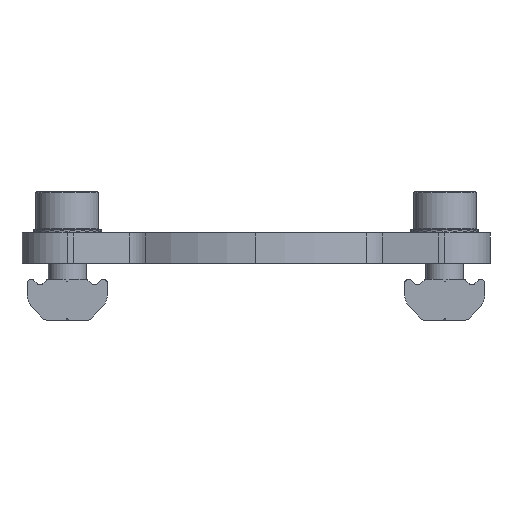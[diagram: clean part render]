
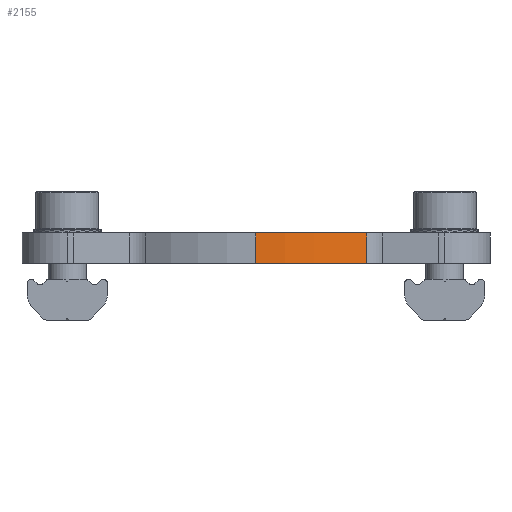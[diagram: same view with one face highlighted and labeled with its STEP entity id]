
A CAD part, left-side view. The second image highlights one B-rep face of the part: STEP entity #2155.
In plain terms, the highlighted cylindrical face has radius 26 mm (diameter 52 mm), a partial arc.
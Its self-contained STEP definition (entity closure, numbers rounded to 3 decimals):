
#188 = CARTESIAN_POINT ( 'NONE',  ( -26., 0., 0. ) ) ;
#214 = CARTESIAN_POINT ( 'NONE',  ( 0., 0., 4. ) ) ;
#1166 = EDGE_CURVE ( 'NONE', #4366, #6252, #3192, .T. ) ;
#1494 = DIRECTION ( 'NONE',  ( 0., 0., 1. ) ) ;
#1505 = CARTESIAN_POINT ( 'NONE',  ( -21.452, -14.69, 0. ) ) ;
#1584 = ORIENTED_EDGE ( 'NONE', *, *, #6849, .T. ) ;
#1639 = FACE_OUTER_BOUND ( 'NONE', #5172, .T. ) ;
#1658 = EDGE_CURVE ( 'NONE', #2732, #6522, #7600, .T. ) ;
#1762 = DIRECTION ( 'NONE',  ( -1., 0., 0. ) ) ;
#1884 = ORIENTED_EDGE ( 'NONE', *, *, #5950, .T. ) ;
#2056 = VECTOR ( 'NONE', #4615, 1000. ) ;
#2155 = ADVANCED_FACE ( 'NONE', ( #1639 ), #9489, .T. ) ;
#2287 = AXIS2_PLACEMENT_3D ( 'NONE', #7956, #1494, #2371 ) ;
#2371 = DIRECTION ( 'NONE',  ( -1., 0., 0. ) ) ;
#2732 = VERTEX_POINT ( 'NONE', #188 ) ;
#3192 = CIRCLE ( 'NONE', #4842, 26. ) ;
#3608 = DIRECTION ( 'NONE',  ( 0., 0., -1. ) ) ;
#3689 = DIRECTION ( 'NONE',  ( 0., 0., -1. ) ) ;
#3725 = CARTESIAN_POINT ( 'NONE',  ( 0., 0., 4. ) ) ;
#3797 = LINE ( 'NONE', #9272, #10281 ) ;
#4366 = VERTEX_POINT ( 'NONE', #8293 ) ;
#4456 = ORIENTED_EDGE ( 'NONE', *, *, #1658, .T. ) ;
#4615 = DIRECTION ( 'NONE',  ( 0., 0., 1. ) ) ;
#4842 = AXIS2_PLACEMENT_3D ( 'NONE', #3725, #3689, #8492 ) ;
#4880 = ORIENTED_EDGE ( 'NONE', *, *, #1166, .T. ) ;
#5158 = CARTESIAN_POINT ( 'NONE',  ( -26., 0., 4. ) ) ;
#5172 = EDGE_LOOP ( 'NONE', ( #4880, #1584, #4456, #1884 ) ) ;
#5419 = CARTESIAN_POINT ( 'NONE',  ( -21.452, -14.69, 4. ) ) ;
#5674 = AXIS2_PLACEMENT_3D ( 'NONE', #214, #9904, #1762 ) ;
#5950 = EDGE_CURVE ( 'NONE', #6522, #4366, #6592, .T. ) ;
#6252 = VERTEX_POINT ( 'NONE', #5158 ) ;
#6522 = VERTEX_POINT ( 'NONE', #1505 ) ;
#6592 = LINE ( 'NONE', #5419, #2056 ) ;
#6849 = EDGE_CURVE ( 'NONE', #6252, #2732, #3797, .T. ) ;
#7600 = CIRCLE ( 'NONE', #2287, 26. ) ;
#7956 = CARTESIAN_POINT ( 'NONE',  ( 0., 0., 0. ) ) ;
#8293 = CARTESIAN_POINT ( 'NONE',  ( -21.452, -14.69, 4. ) ) ;
#8492 = DIRECTION ( 'NONE',  ( -1., 0., 0. ) ) ;
#9272 = CARTESIAN_POINT ( 'NONE',  ( -26., 0., 4. ) ) ;
#9489 = CYLINDRICAL_SURFACE ( 'NONE', #5674, 26. ) ;
#9904 = DIRECTION ( 'NONE',  ( 0., 0., -1. ) ) ;
#10281 = VECTOR ( 'NONE', #3608, 1000. ) ;
